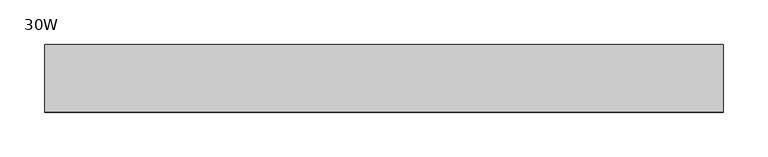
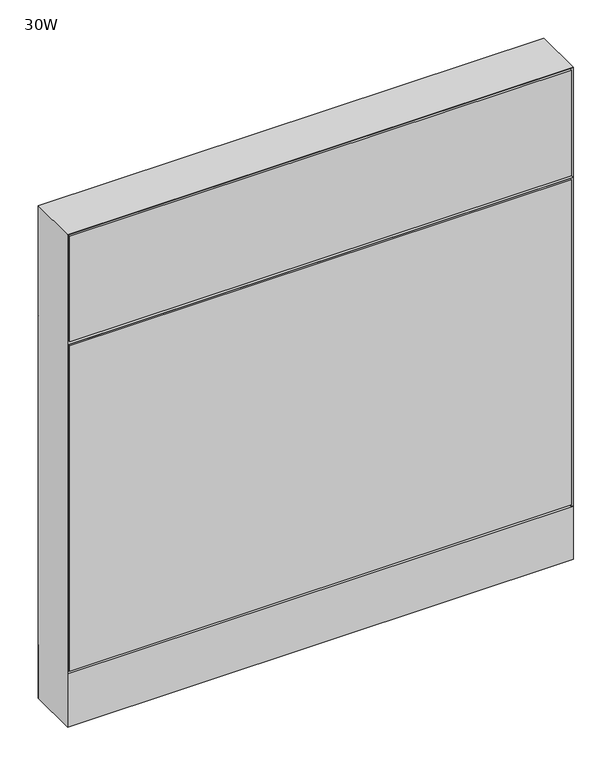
"""IFC4 building model written with IfcOpenShell, lengths in millimetres: furniture geometry, Steelcase - Montage - Frame - 31H - Enhanced Standard - Base Cavity : 30W."""

from ifc_helpers import new_model, si_unit, point, frame, frame_2d, origin, origin_with_axes, place, context, project, spatial, polyline, circle_curve, trimmed, segment, composite_curve, outline, extrude, faceted_brep, source, transform, mapped, element, save


def furniture_30w_12dec47a(model_context):
    return source(origin(), model_context, "Body", "SolidModel", [
        faceted_brep([(-5.7e-06, 38.1026268, 612.7750028), (6.3499913, 31.7526299, 619.1249997), (755.6500048, 31.7526299, 619.1249997), (762.0, 38.1026251, 612.7750045), (755.6500048, 31.7526299, 606.4250003), (6.3499913, 31.7526299, 606.4250003)], [[[0, 1, 2, 3]], [[3, 4, 5, 0]], [[1, 5, 4, 2]], [[0, 5, 1]], [[2, 4, 3]]]),
        extrude(outline(polyline([(3.175, 31.7500194), (3.175, 38.1000194), (758.825, 38.1000194), (758.825, 31.7500194), (3.175, 31.7500194)])), frame((0.0, 0.0, 92.075), z_axis=(0.0, 0.0, 1.0), x_axis=(1.0, 0.0, 0.0)), (0.0, 0.0, 1.0), 517.525),
        extrude(outline(polyline([(3.175, 31.7500194), (3.175, 38.1000194), (758.825, 38.1000194), (758.825, 31.7500194), (3.175, 31.7500194)])), frame((0.0, 0.0, 615.95), z_axis=(0.0, 0.0, 1.0), x_axis=(1.0, 0.0, 0.0)), (0.0, 0.0, 1.0), 168.275),
        faceted_brep([(0.0, -38.1026297, 612.775), (762.0, -38.1026297, 612.775), (755.6500048, -31.7526299, 619.1249997), (6.3499913, -31.7526299, 619.1249997), (6.3499913, -31.7526299, 606.4250003), (755.6500048, -31.7526299, 606.4250003)], [[[0, 1, 2, 3]], [[1, 0, 4, 5]], [[3, 2, 5, 4]], [[0, 3, 4]], [[2, 1, 5]]]),
        extrude(outline(polyline([(3.175, -31.7500194), (758.825, -31.7500194), (758.825, -38.1000194), (3.175, -38.1000194), (3.175, -31.7500194)])), frame((0.0, 0.0, 92.075), z_axis=(0.0, 0.0, 1.0), x_axis=(1.0, 0.0, 0.0)), (0.0, 0.0, 1.0), 517.525),
        extrude(outline(polyline([(3.175, -31.7500194), (758.825, -31.7500194), (758.825, -38.1000194), (3.175, -38.1000194), (3.175, -31.7500194)])), frame((0.0, 0.0, 615.95), z_axis=(0.0, 0.0, 1.0), x_axis=(1.0, 0.0, 0.0)), (0.0, 0.0, 1.0), 168.275),
        extrude(outline(polyline([(6.350003, -31.7499985), (755.649997, -31.7499985), (762.0, -38.1000015), (0.0, -38.1000015), (6.350003, -31.7499985)])), frame((0.0, 0.0, 4.064), z_axis=(0.0, 0.0, 1.0), x_axis=(1.0, 0.0, 0.0)), (0.0, 0.0, 1.0), 84.835997),
        extrude(outline(polyline([(6.3500002, 31.7500017), (0.0, 38.1000015), (762.0, 38.1000015), (755.6500002, 31.7500017), (6.3500002, 31.7500017)])), frame((0.0, 0.0, 4.064), z_axis=(0.0, 0.0, 1.0), x_axis=(1.0, 0.0, 0.0)), (0.0, 0.0, 1.0), 84.835997),
        faceted_brep([(762.0, -38.1000015, 787.4), (0.0, -38.1000015, 787.4), (6.3500484, -31.749953, 781.0499516), (755.6499516, -31.749953, 781.0499516), (6.3500484, 31.749953, 781.0499516), (755.6499516, 31.749953, 781.0499516), (0.0, 38.1000015, 787.4), (762.0, 38.1000015, 787.4)], [[[0, 1, 2, 3]], [[3, 2, 4, 5]], [[6, 7, 5, 4]], [[1, 0, 7, 6]], [[2, 1, 6, 4]], [[0, 3, 5, 7]]]),
        extrude(outline(composite_curve([segment(trimmed(circle_curve(frame_2d((44.45, 0.0)), 15.24), [point((29.21, 0.0))], [point((59.69, 0.0))], False, "CARTESIAN"), True, "CONTINUOUS"), segment(trimmed(circle_curve(frame_2d((44.45, 0.0)), 15.24), [point((59.69, 0.0))], [point((29.21, 0.0))], False, "CARTESIAN"), True, "CONTINUOUS")], self_intersect=False)), origin_with_axes(), (0.0, 0.0, 1.0), 4.064),
        extrude(outline(composite_curve([segment(trimmed(circle_curve(frame_2d((717.55, 0.0)), 15.24), [point((702.31, 0.0))], [point((732.79, 0.0))], False, "CARTESIAN"), True, "CONTINUOUS"), segment(trimmed(circle_curve(frame_2d((717.55, 0.0)), 15.24), [point((732.79, 0.0))], [point((702.31, 0.0))], False, "CARTESIAN"), True, "CONTINUOUS")], self_intersect=False)), origin_with_axes(), (0.0, 0.0, 1.0), 4.064),
        faceted_brep([(762.0, -38.1000106, 4.064), (762.0, 38.1000015, 4.064), (762.0, 38.1000015, 787.4), (762.0, -38.1000106, 787.3999637), (0.0, 38.1000015, 4.064), (0.0, -38.1000015, 4.064), (0.0, -38.1000015, 787.4), (0.0, 38.1000015, 787.4), (755.6499879, 31.7500017, 606.425), (6.35, 31.7500017, 606.425), (6.3499998, 31.7500017, 619.125), (755.6499879, 31.7500017, 619.125), (6.35, -31.7499985, 619.125), (755.6499879, -31.7499985, 619.125), (6.350003, -31.7499985, 606.425), (755.6499879, -31.7499985, 606.425), (6.35, 31.7500015, 4.064), (6.35, -31.7500015, 4.064), (755.6499879, 31.7499894, 4.064), (755.6499879, -31.7499985, 4.064), (6.35, 31.7500015, 781.05), (6.35, -31.7500015, 781.05), (755.6499879, -31.7499985, 781.0499516), (755.6499879, 31.7499898, 781.0499516)], [[[0, 1, 2, 3]], [[4, 5, 6, 7]], [[8, 9, 10, 11]], [[11, 10, 12, 13]], [[13, 12, 14, 15]], [[9, 8, 15, 14]], [[16, 17, 5, 4]], [[18, 1, 0, 19]], [[16, 4, 7, 20, 10, 9]], [[5, 17, 14, 12, 21, 6]], [[17, 16, 9, 14]], [[12, 10, 20, 21]], [[18, 19, 15, 8]], [[11, 13, 22, 23]], [[19, 0, 3, 22, 13, 15]], [[1, 18, 8, 11, 23, 2]], [[7, 6, 21, 20]], [[3, 2, 23, 22]]]),
    ])


if __name__ == "__main__":
    model = new_model("IFC4")
    model_context = context("Model", 3, world=origin())
    ifc_project = project(units=[si_unit("LENGTHUNIT", "METRE", prefix="MILLI")], contexts=[model_context])
    site = spatial("IfcSite", under=ifc_project)
    building = spatial("IfcBuilding", under=site)
    placement = place(None, origin())
    furniture_30w_shape = furniture_30w_12dec47a(model_context)
    element("IfcFurniture", 1, ObjectType="Steelcase - Montage - Frame - 31H - Enhanced Standard - Base Cavity : 30W", at=placement, inside=building, context=model_context, shape_type="MappedRepresentation", body=[
        mapped(furniture_30w_shape, transform((0.0, 0.0, 0.0), x_axis=(1.0, 0.0, 0.0), y_axis=(0.0, 1.0, 0.0), z_axis=(0.0, 0.0, 1.0))),
    ])
    save(model, "model.ifc")
